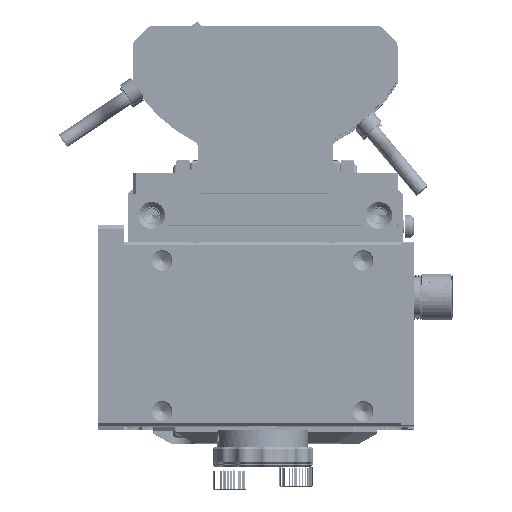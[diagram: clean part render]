
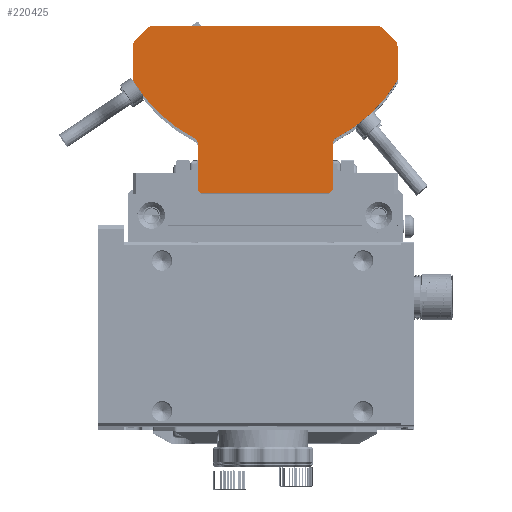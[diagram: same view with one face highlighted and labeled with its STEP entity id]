
A CAD part, top view. The second image highlights one B-rep face of the part: STEP entity #220425.
In plain terms, the highlighted planar face has unit normal (0, 0, 1).
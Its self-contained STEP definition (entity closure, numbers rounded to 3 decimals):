
#218738=CARTESIAN_POINT('',(-36.5,51.76,287.028));
#218739=DIRECTION('',(0.,0.,1.));
#218740=DIRECTION('',(-0.707,0.707,0.));
#218741=AXIS2_PLACEMENT_3D('',#218738,#218739,#218740);
#218743=DIRECTION('',(-0.707,-0.707,0.));
#218744=VECTOR('',#218743,4.586);
#218745=CARTESIAN_POINT('',(-35.379,57.124,287.028));
#218746=LINE('',#218745,#218744);
#218747=CARTESIAN_POINT('',(-33.257,55.003,287.028));
#218748=DIRECTION('',(0.,0.,1.));
#218749=DIRECTION('',(0.,1.,0.));
#218750=AXIS2_PLACEMENT_3D('',#218747,#218748,#218749);
#218752=DIRECTION('',(-1.,0.,0.));
#218753=VECTOR('',#218752,66.515);
#218754=CARTESIAN_POINT('',(33.257,58.003,287.028));
#218755=LINE('',#218754,#218753);
#218756=CARTESIAN_POINT('',(33.257,55.003,287.028));
#218757=DIRECTION('',(0.,0.,1.));
#218758=DIRECTION('',(0.707,0.707,0.));
#218759=AXIS2_PLACEMENT_3D('',#218756,#218757,#218758);
#218761=DIRECTION('',(-0.707,0.707,0.));
#218762=VECTOR('',#218761,4.586);
#218763=CARTESIAN_POINT('',(38.621,53.882,287.028));
#218764=LINE('',#218763,#218762);
#218765=CARTESIAN_POINT('',(36.5,51.76,287.028));
#218766=DIRECTION('',(0.,0.,1.));
#218767=DIRECTION('',(1.,0.,0.));
#218768=AXIS2_PLACEMENT_3D('',#218765,#218766,#218767);
#218770=DIRECTION('',(0.,1.,0.));
#218771=VECTOR('',#218770,9.971);
#218772=CARTESIAN_POINT('',(39.5,41.79,287.028));
#218773=LINE('',#218772,#218771);
#218774=CARTESIAN_POINT('',(0.,65.403,287.028));
#218775=DIRECTION('',(0.,0.,-1.));
#218776=DIRECTION('',(0.858,-0.513,0.));
#218777=AXIS2_PLACEMENT_3D('',#218774,#218775,#218776);
#218779=DIRECTION('',(0.707,0.707,0.));
#218780=VECTOR('',#218779,1.414);
#218781=CARTESIAN_POINT('',(19.097,8.003,287.028));
#218782=LINE('',#218781,#218780);
#218783=DIRECTION('',(1.,0.,0.));
#218784=VECTOR('',#218783,38.194);
#218785=CARTESIAN_POINT('',(-19.097,8.003,287.028));
#218786=LINE('',#218785,#218784);
#218787=DIRECTION('',(0.707,-0.707,0.));
#218788=VECTOR('',#218787,1.414);
#218789=CARTESIAN_POINT('',(-20.097,9.003,287.028));
#218790=LINE('',#218789,#218788);
#218791=CARTESIAN_POINT('',(0.,65.403,287.028));
#218792=DIRECTION('',(0.,0.,-1.));
#218793=DIRECTION('',(-0.46,-0.888,0.));
#218794=AXIS2_PLACEMENT_3D('',#218791,#218792,#218793);
#218796=DIRECTION('',(0.,-1.,0.));
#218797=VECTOR('',#218796,9.971);
#218798=CARTESIAN_POINT('',(-39.5,51.76,287.028));
#218799=LINE('',#218798,#218797);
#218939=DIRECTION('',(0.,1.,0.));
#218940=VECTOR('',#218939,13.766);
#218941=CARTESIAN_POINT('',(20.097,9.003,287.028));
#218942=LINE('',#218941,#218940);
#219729=DIRECTION('',(0.,-1.,0.));
#219730=VECTOR('',#219729,13.766);
#219731=CARTESIAN_POINT('',(-20.097,22.769,287.028));
#219732=LINE('',#219731,#219730);
#219772=CARTESIAN_POINT('',(-22.097,22.769,287.028));
#219773=DIRECTION('',(0.,0.,-1.));
#219774=DIRECTION('',(0.46,0.888,0.));
#219775=AXIS2_PLACEMENT_3D('',#219772,#219773,#219774);
#220065=CARTESIAN_POINT('',(22.097,22.769,287.028));
#220066=DIRECTION('',(0.,0.,-1.));
#220067=DIRECTION('',(-1.,0.,0.));
#220068=AXIS2_PLACEMENT_3D('',#220065,#220066,#220067);
#220236=CARTESIAN_POINT('',(-39.5,41.79,287.028));
#220237=VERTEX_POINT('',#220236);
#220238=CARTESIAN_POINT('',(39.5,41.79,287.028));
#220239=VERTEX_POINT('',#220238);
#220240=CARTESIAN_POINT('',(20.097,22.769,287.028));
#220242=VERTEX_POINT('',#220240);
#220244=CARTESIAN_POINT('',(21.176,24.545,287.028));
#220246=VERTEX_POINT('',#220244);
#220249=CARTESIAN_POINT('',(-20.097,22.769,287.028));
#220251=VERTEX_POINT('',#220249);
#220253=CARTESIAN_POINT('',(-21.176,24.545,287.028));
#220255=VERTEX_POINT('',#220253);
#220256=CARTESIAN_POINT('',(19.097,8.003,287.028));
#220257=CARTESIAN_POINT('',(20.097,9.003,287.028));
#220258=VERTEX_POINT('',#220256);
#220259=VERTEX_POINT('',#220257);
#220272=CARTESIAN_POINT('',(-20.097,9.003,287.028));
#220274=VERTEX_POINT('',#220272);
#220276=CARTESIAN_POINT('',(-19.097,8.003,287.028));
#220277=VERTEX_POINT('',#220276);
#220292=CARTESIAN_POINT('',(-38.621,53.882,287.028));
#220293=VERTEX_POINT('',#220292);
#220294=CARTESIAN_POINT('',(-39.5,51.76,287.028));
#220295=VERTEX_POINT('',#220294);
#220296=CARTESIAN_POINT('',(-33.257,58.003,287.028));
#220297=CARTESIAN_POINT('',(-35.379,57.124,287.028));
#220298=VERTEX_POINT('',#220296);
#220299=VERTEX_POINT('',#220297);
#220308=CARTESIAN_POINT('',(35.379,57.124,287.028));
#220309=VERTEX_POINT('',#220308);
#220310=CARTESIAN_POINT('',(33.257,58.003,287.028));
#220311=VERTEX_POINT('',#220310);
#220312=CARTESIAN_POINT('',(39.5,51.76,287.028));
#220313=CARTESIAN_POINT('',(38.621,53.882,287.028));
#220314=VERTEX_POINT('',#220312);
#220315=VERTEX_POINT('',#220313);
#220382=CARTESIAN_POINT('',(0.,33.003,287.028));
#220383=DIRECTION('',(0.,0.,1.));
#220384=DIRECTION('',(-1.,0.,0.));
#220385=AXIS2_PLACEMENT_3D('',#220382,#220383,#220384);
#220386=PLANE('',#220385);
#220388=ORIENTED_EDGE('',*,*,#220387,.F.);
#220390=ORIENTED_EDGE('',*,*,#220389,.F.);
#220392=ORIENTED_EDGE('',*,*,#220391,.F.);
#220394=ORIENTED_EDGE('',*,*,#220393,.F.);
#220396=ORIENTED_EDGE('',*,*,#220395,.F.);
#220398=ORIENTED_EDGE('',*,*,#220397,.F.);
#220400=ORIENTED_EDGE('',*,*,#220399,.F.);
#220402=ORIENTED_EDGE('',*,*,#220401,.F.);
#220404=ORIENTED_EDGE('',*,*,#220403,.T.);
#220406=ORIENTED_EDGE('',*,*,#220405,.F.);
#220408=ORIENTED_EDGE('',*,*,#220407,.F.);
#220410=ORIENTED_EDGE('',*,*,#220409,.F.);
#220412=ORIENTED_EDGE('',*,*,#220411,.F.);
#220414=ORIENTED_EDGE('',*,*,#220413,.F.);
#220416=ORIENTED_EDGE('',*,*,#220415,.F.);
#220418=ORIENTED_EDGE('',*,*,#220417,.F.);
#220420=ORIENTED_EDGE('',*,*,#220419,.T.);
#220422=ORIENTED_EDGE('',*,*,#220421,.F.);
#220423=EDGE_LOOP('',(#220388,#220390,#220392,#220394,#220396,#220398,#220400,
#220402,#220404,#220406,#220408,#220410,#220412,#220414,#220416,#220418,#220420,
#220422));
#220424=FACE_OUTER_BOUND('',#220423,.F.);
#220425=ADVANCED_FACE('',(#220424),#220386,.T.);
#218742=CIRCLE('',#218741,3.);
#218751=CIRCLE('',#218750,3.);
#218760=CIRCLE('',#218759,3.);
#218769=CIRCLE('',#218768,3.);
#218778=CIRCLE('',#218777,46.02);
#218795=CIRCLE('',#218794,46.02);
#219776=CIRCLE('',#219775,2.);
#220069=CIRCLE('',#220068,2.);
#220387=EDGE_CURVE('',#220293,#220295,#218742,.T.);
#220389=EDGE_CURVE('',#220299,#220293,#218746,.T.);
#220391=EDGE_CURVE('',#220298,#220299,#218751,.T.);
#220393=EDGE_CURVE('',#220311,#220298,#218755,.T.);
#220395=EDGE_CURVE('',#220309,#220311,#218760,.T.);
#220397=EDGE_CURVE('',#220315,#220309,#218764,.T.);
#220399=EDGE_CURVE('',#220314,#220315,#218769,.T.);
#220401=EDGE_CURVE('',#220239,#220314,#218773,.T.);
#220403=EDGE_CURVE('',#220239,#220246,#218778,.T.);
#220405=EDGE_CURVE('',#220242,#220246,#220069,.T.);
#220407=EDGE_CURVE('',#220259,#220242,#218942,.T.);
#220409=EDGE_CURVE('',#220258,#220259,#218782,.T.);
#220411=EDGE_CURVE('',#220277,#220258,#218786,.T.);
#220413=EDGE_CURVE('',#220274,#220277,#218790,.T.);
#220415=EDGE_CURVE('',#220251,#220274,#219732,.T.);
#220417=EDGE_CURVE('',#220255,#220251,#219776,.T.);
#220419=EDGE_CURVE('',#220255,#220237,#218795,.T.);
#220421=EDGE_CURVE('',#220295,#220237,#218799,.T.);
